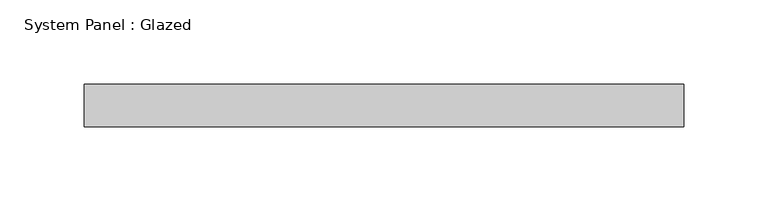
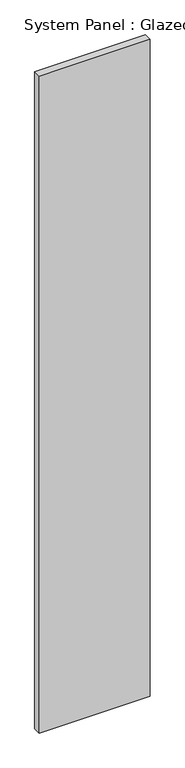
"""IFC4 building model written with IfcOpenShell, lengths in millimetres: plate geometry, System Panel : Glazed."""

from ifc_helpers import new_model, si_unit, origin, origin_with_axes, place, context, project, spatial, polyline, outline, extrude, source, transform, mapped, element, save


def system_panel_glazed_2c7f7bc3(model_context):
    return source(origin(), model_context, "Body", "SweptSolid", [
        extrude(outline(polyline([(177.5, -12.5), (-177.5, -12.5), (-177.5, 12.5), (177.5, 12.5), (177.5, -12.5)])), origin_with_axes(), (0.0, 0.0, 1.0), 2225.0),
    ])


if __name__ == "__main__":
    model = new_model("IFC4")
    model_context = context("Model", 3, world=origin())
    ifc_project = project(units=[si_unit("LENGTHUNIT", "METRE", prefix="MILLI")], contexts=[model_context])
    site = spatial("IfcSite", under=ifc_project)
    building = spatial("IfcBuilding", under=site)
    placement = place(None, origin())
    system_panel_glazed_shape = system_panel_glazed_2c7f7bc3(model_context)
    element("IfcPlate", 1, ObjectType="System Panel : Glazed", at=placement, inside=building, context=model_context, shape_type="MappedRepresentation", body=[
        mapped(system_panel_glazed_shape, transform((0.0, 0.0, 0.0), x_axis=(1.0, 0.0, 0.0), y_axis=(0.0, 1.0, 0.0), z_axis=(0.0, 0.0, 1.0))),
    ])
    save(model, "model.ifc")
